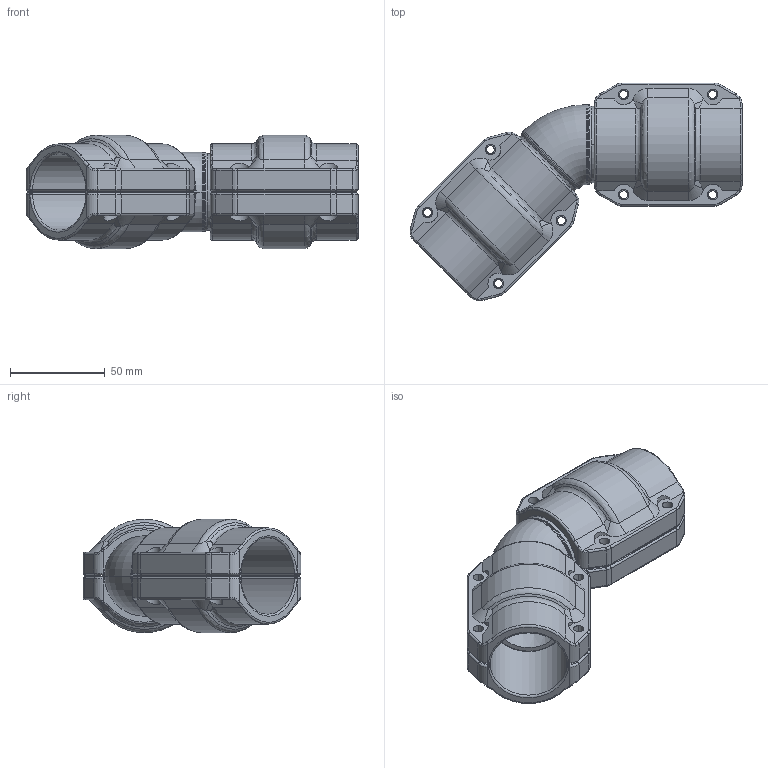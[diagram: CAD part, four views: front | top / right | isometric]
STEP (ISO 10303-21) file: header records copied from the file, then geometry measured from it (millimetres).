
FILE_DESCRIPTION((''),'2;1');
FILE_NAME('2015400499_ASM_6_ASM','2017-05-15T',('Administrator'),(''),'PRO/ENGINEER BY PARAMETRIC TECHNOLOGY CORPORATION, 2009360','PRO/ENGINEER BY PARAMETRIC TECHNOLOGY CORPORATION, 2009360','');
FILE_SCHEMA(('AUTOMOTIVE_DESIGN_CC2 { 1 2 10303 214 -1 1 5 2 }'));
Length unit declared in the file: millimetre
Products named in the file (5): 2015400400_5; 201540020001_1; 201540020000_1; 2015400200_ASM_1_ASM; 2015400499_ASM_6_ASM
Assembly tree (5 placements, depth 3):
  2015400499_ASM_6_ASM
    2015400400_5
    2015400200_ASM_1_ASM  x2
      201540020001_1
      201540020000_1
Bounding box: 175.39 x 115.09 x 59.9 mm (x, y, z)
Volume: 235493.7 mm3; surface area: 86996.7 mm2
Topology: 5 solids, 5 shells, 463 faces, 1237 edges, 768 vertices
Faces by surface type: cylinder 194, torus 114, plane 74, bspline 49, cone 16, sphere 16
Entity records: 11598 total; most frequent: CARTESIAN_POINT 3250, DIRECTION 1348, ORIENTED_EDGE 1328, PRESENTATION_STYLE_ASSIGNMENT 667, STYLED_ITEM 667, CURVE_STYLE 664, EDGE_CURVE 664, AXIS2_PLACEMENT_3D 578
